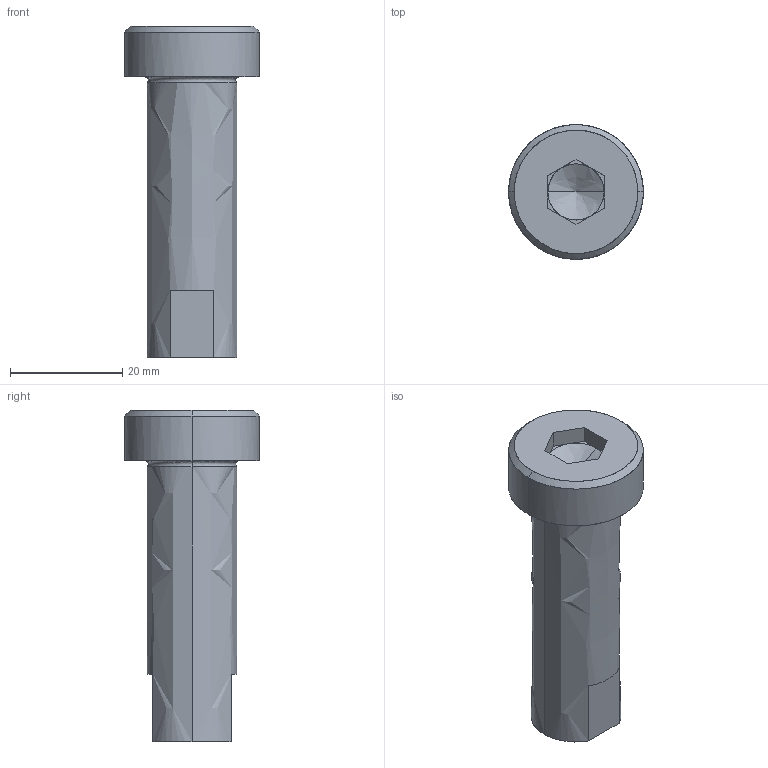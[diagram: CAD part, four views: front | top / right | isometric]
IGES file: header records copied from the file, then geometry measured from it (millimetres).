
Global section: file name: E:\UnigraphicsGraphicData\MISUMI_PRESS-PARTS\IGES\3d_sbtn16-50_00144_r00.igs; native system: NX V5.0; preprocessor: UGS NX IGES V5.0; author: MISUMI; date: 20110105.162506; units: millimetre
Bounding box: 24 x 24 x 59 mm (x, y, z)
Surface area: 4711.6 mm2 (no closed solid volume)
Topology: 0 solids, 0 shells, 38 faces, 212 edges, 208 vertices
Faces by surface type: bspline 38
